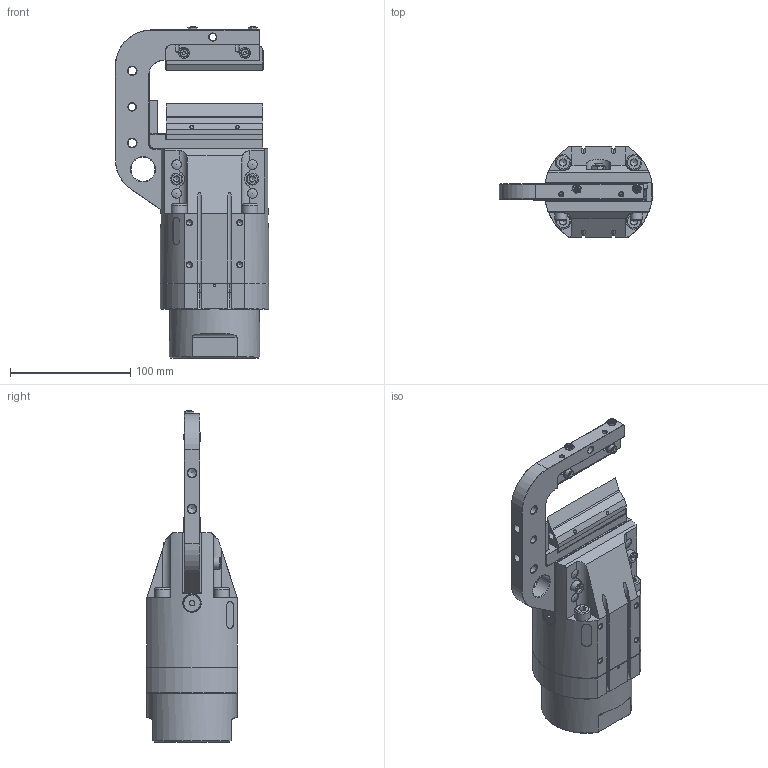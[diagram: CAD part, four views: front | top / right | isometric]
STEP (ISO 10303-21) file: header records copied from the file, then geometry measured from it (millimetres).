
FILE_DESCRIPTION(/* description */ (''),/* implementation_level */ '2;1');
FILE_NAME(/* name */ 'GT-N80H-63（外发）.step',/* time_stamp */ '2024-05-29T09:52:53+08:00',/* author */ (''),/* organization */ (''),/* preprocessor_version */ 'ST-DEVELOPER v16',/* originating_system */ 'SIEMENS PLM Software NX 10.0',/* authorisation */ '');
FILE_SCHEMA (('AUTOMOTIVE_DESIGN { 1 0 10303 214 3 1 1 1 }'));
Length unit declared in the file: millimetre
Products named in the file (1): _model1
Bounding box: 127.5 x 75 x 276.2 mm (x, y, z)
Volume: 925849.1 mm3; surface area: 120429.1 mm2
Topology: 1 solids, 49 shells, 1011 faces, 2394 edges, 1482 vertices
Faces by surface type: plane 622, cone 177, cylinder 174, torus 24, bspline 10, revolution 4
Full cylindrical faces by diameter (mm): 2 x3, 2.5 x4, 3.3 x6, 4 x10, 4.2 x8, 4.5 x2, 4.7 x2, 6 x6, 6.2 x2, 6.3 x1, 6.4 x2, 6.5 x4, 6.8 x4, 7 x7, 8 x20, 8.2 x4, 8.8 x2, 9 x2, 10 x2, 13 x4, 14 x1, 15 x2, 20 x1, 25 x1, 26 x2, 55 x1, 75 x1
Entity records: 39436 total; most frequent: CARTESIAN_POINT 11027, DIRECTION 4475, ORIENTED_EDGE 4068, EDGE_CURVE 2034, AXIS2_PLACEMENT_3D 1616, VERTEX_POINT 1380, EDGE_LOOP 1315, LINE 1239
